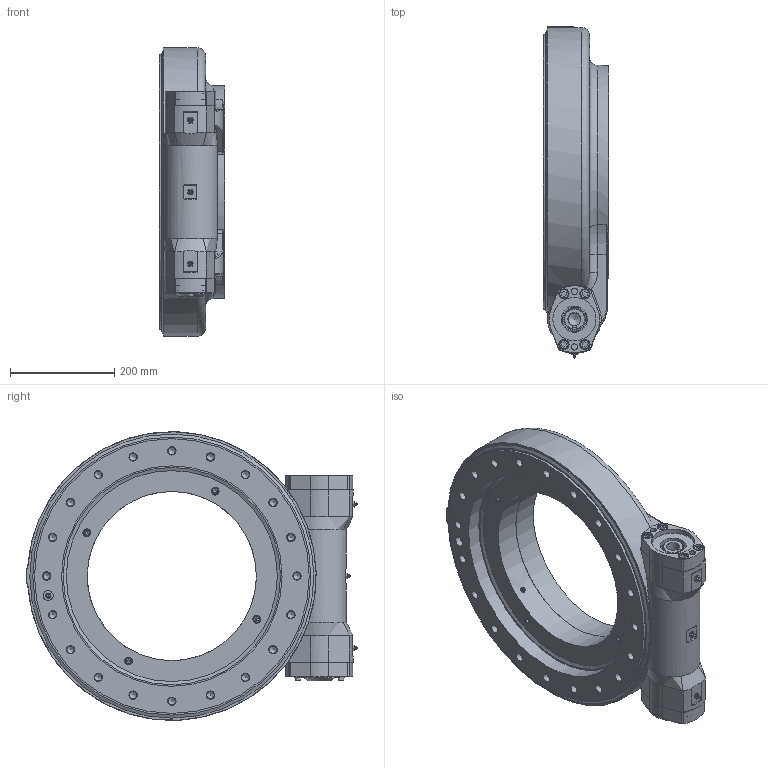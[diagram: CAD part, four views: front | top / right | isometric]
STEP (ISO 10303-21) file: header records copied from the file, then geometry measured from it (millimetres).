
FILE_DESCRIPTION (( 'STEP AP214' ), '1' );
FILE_NAME ('FGE17-102M-25H-R-REV.A.STEP', '2023-09-06T05:29:27', ( '' ), ( '' ), 'SwSTEP 2.0', 'SolidWorks 2018', '' );
FILE_SCHEMA (( 'AUTOMOTIVE_DESIGN' ));
Length unit declared in the file: millimetre
Products named in the file (1): FGE17-102M-25H-R-REV.A
Bounding box: 126 x 635.42 x 552.22 mm (x, y, z)
Volume: 13335580.5 mm3; surface area: 1741748.5 mm2
Topology: 18 solids, 18 shells, 903 faces, 1973 edges, 1258 vertices
Faces by surface type: plane 392, cylinder 309, cone 99, bspline 53, torus 47, sphere 3
Full cylindrical faces by diameter (mm): 5 x3, 6 x2, 6.8 x4, 7 x5, 8 x11, 9 x6, 9.093 x1, 10 x8, 10.084 x1, 10.2 x8, 12 x10, 13 x12, 14 x40, 15 x4, 16 x40, 18 x28, 19 x1, 19.5 x8, 24 x1, 25.4 x1, 35 x1, 40 x4, 41.908 x2, 47 x2, 50 x4, 57 x1, 66 x2, 68.5 x2, 75 x2, 80 x4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
Entity records: 37641 total; most frequent: CARTESIAN_POINT 9735, DIRECTION 3735, ORIENTED_EDGE 2960, AXIS2_PLACEMENT_3D 1586, EDGE_LOOP 1510, EDGE_CURVE 1480, FACE_OUTER_BOUND 1178, VERTEX_POINT 1142
